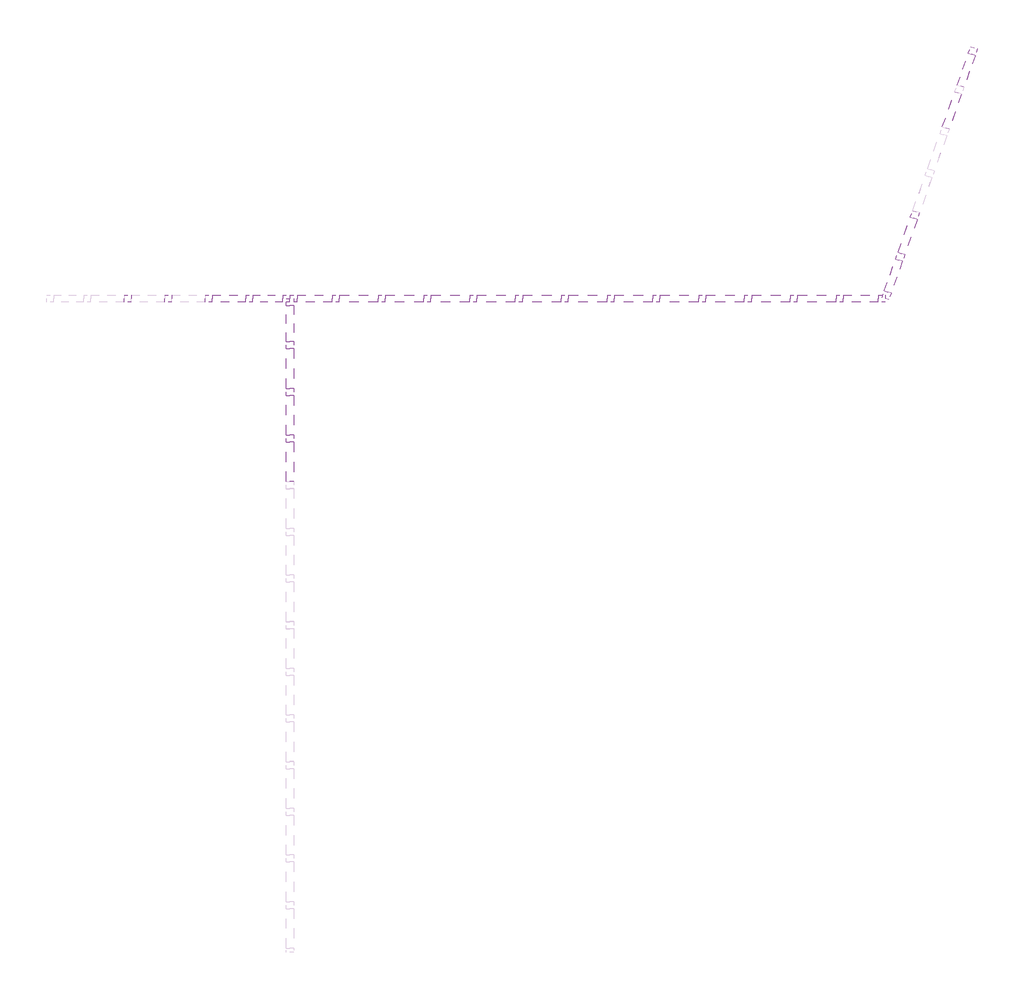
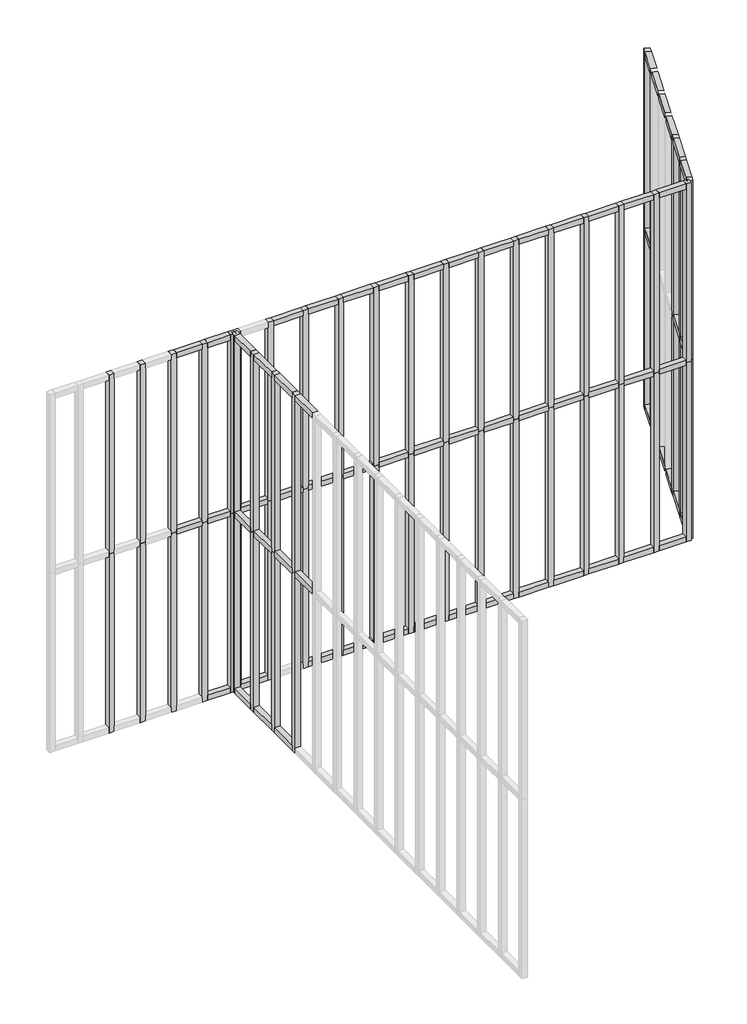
# One storey, part 8 of 9: 123 members.
"""IFC4 building model written with IfcOpenShell, lengths in millimetres."""

from ifc_helpers import new_model, si_unit, origin, place, context, project, spatial, transform, mapped, element, save
from components import montante_retangular_30mm_quadrado_ac79c377, montante_retangular_30mm_quadrado_16fee919, montante_retangular_30mm_quadrado_1e3c183d, montante_retangular_30mm_quadrado_ac46af65, montante_retangular_30mm_quadrado_54fe6a28, montante_retangular_30mm_quadrado_adf08955, montante_retangular_30mm_quadrado_f5f8abc7, montante_retangular_30mm_quadrado_1152fbe8, montante_retangular_30mm_quadrado_caeeb86b, montante_retangular_30mm_quadrado_d90e5050, montante_retangular_30mm_quadrado_529ace61, montante_retangular_30mm_quadrado_48edb5a7, montante_retangular_30mm_quadrado_ebddef8f, montante_retangular_30mm_quadrado_435085d7, montante_retangular_30mm_quadrado_4eb7c7a0, montante_retangular_30mm_quadrado_8179dd59, montante_retangular_30mm_quadrado_2f76d517, montante_retangular_30mm_quadrado_018b02ca

model = new_model("IFC4")

# Units and contexts
model_context = context("Model", 3, world=origin())
ifc_project = project(units=[si_unit("LENGTHUNIT", "METRE", prefix="MILLI")], contexts=[model_context])

# Site, building, storey
site = spatial("IfcSite", under=ifc_project)
building = spatial("IfcBuilding", under=site)
storey = spatial("IfcBuildingStorey", under=building, Name="Garagem 1", Elevation=47850.0)

# Members
placement = place(None, origin())
montante_retangular_30mm_quadrado_shape = montante_retangular_30mm_quadrado_ac79c377(model_context)
element("IfcMember", 1, ObjectType="Montante retangular : 30mm Quadrado", at=placement, inside=storey, context=model_context, shape_type="MappedRepresentation", body=[
    mapped(montante_retangular_30mm_quadrado_shape, transform((-6243.4895645, 10632.3610556, 52100.0), x_axis=(0.0, 0.0, 1.0), y_axis=(0.0, -1.0, 0.0), z_axis=(1.0, 0.0, 0.0))),
])
montante_retangular_30mm_quadrado_2_shape = montante_retangular_30mm_quadrado_16fee919(model_context)
element("IfcMember", 2, ObjectType="Montante retangular : 30mm Quadrado", at=placement, inside=storey, context=model_context, shape_type="MappedRepresentation", body=[
    mapped(montante_retangular_30mm_quadrado_2_shape, transform((-6400.9204789, 10632.3610556, 52100.0), x_axis=(0.0, 0.0, 1.0), y_axis=(0.0, -1.0, 0.0), z_axis=(1.0, 0.0, 0.0))),
])
element("IfcMember", 3, ObjectType="Montante retangular : 30mm Quadrado", at=placement, inside=storey, context=model_context, shape_type="MappedRepresentation", body=[
    mapped(montante_retangular_30mm_quadrado_shape, transform((-6370.9204789, 10632.3610556, 50000.0), x_axis=(0.0, 0.0, -1.0), y_axis=(0.0, -1.0, 0.0), z_axis=(-1.0, 0.0, 0.0))),
])
montante_retangular_30mm_quadrado_3_shape = montante_retangular_30mm_quadrado_1e3c183d(model_context)
element("IfcMember", 4, ObjectType="Montante retangular : 30mm Quadrado", at=placement, inside=storey, context=model_context, shape_type="MappedRepresentation", body=[
    mapped(montante_retangular_30mm_quadrado_3_shape, transform((-6243.4895645, 10632.3610556, 51050.0), x_axis=(0.0, 0.0, 1.0), y_axis=(0.0, -1.0, 0.0), z_axis=(1.0, 0.0, 0.0))),
])
montante_retangular_30mm_quadrado_4_shape = montante_retangular_30mm_quadrado_ac46af65(model_context)
element("IfcMember", 5, ObjectType="Montante retangular : 30mm Quadrado", at=placement, inside=storey, context=model_context, shape_type="MappedRepresentation", body=[
    mapped(montante_retangular_30mm_quadrado_4_shape, transform((-6400.9204789, 10632.3610556, 51050.0), x_axis=(0.0, 0.0, 1.0), y_axis=(0.0, -1.0, 0.0), z_axis=(1.0, 0.0, 0.0))),
])
montante_retangular_30mm_quadrado_5_shape = montante_retangular_30mm_quadrado_54fe6a28(model_context)
element("IfcMember", 6, ObjectType="Montante retangular : 30mm Quadrado", at=placement, inside=storey, context=model_context, shape_type="MappedRepresentation", body=[
    mapped(montante_retangular_30mm_quadrado_5_shape, transform((-6903.2132212, 10632.3610556, 50000.0), x_axis=(1.0, 0.0, 0.0), y_axis=(0.0, -1.0, 0.0), z_axis=(0.0, 0.0, -1.0))),
])
element("IfcMember", 7, ObjectType="Montante retangular : 30mm Quadrado", at=placement, inside=storey, context=model_context, shape_type="MappedRepresentation", body=[
    mapped(montante_retangular_30mm_quadrado_5_shape, transform((-6730.7823071, 10632.3610556, 50000.0), x_axis=(1.0, 0.0, 0.0), y_axis=(0.0, -1.0, 0.0), z_axis=(0.0, 0.0, -1.0))),
])
element("IfcMember", 8, ObjectType="Montante retangular : 30mm Quadrado", at=placement, inside=storey, context=model_context, shape_type="MappedRepresentation", body=[
    mapped(montante_retangular_30mm_quadrado_5_shape, transform((-6558.351393, 10632.3610556, 50000.0), x_axis=(1.0, 0.0, 0.0), y_axis=(0.0, -1.0, 0.0), z_axis=(0.0, 0.0, -1.0))),
])
element("IfcMember", 9, ObjectType="Montante retangular : 30mm Quadrado", at=placement, inside=storey, context=model_context, shape_type="MappedRepresentation", body=[
    mapped(montante_retangular_30mm_quadrado_5_shape, transform((-6018.8596168, 10632.3610556, 50000.0), x_axis=(1.0, 0.0, 0.0), y_axis=(0.0, -1.0, 0.0), z_axis=(0.0, 0.0, -1.0))),
])
element("IfcMember", 10, ObjectType="Montante retangular : 30mm Quadrado", at=placement, inside=storey, context=model_context, shape_type="MappedRepresentation", body=[
    mapped(montante_retangular_30mm_quadrado_5_shape, transform((-5824.2296693, 10632.3610556, 50000.0), x_axis=(1.0, 0.0, 0.0), y_axis=(0.0, -1.0, 0.0), z_axis=(0.0, 0.0, -1.0))),
])
element("IfcMember", 11, ObjectType="Montante retangular : 30mm Quadrado", at=placement, inside=storey, context=model_context, shape_type="MappedRepresentation", body=[
    mapped(montante_retangular_30mm_quadrado_5_shape, transform((-5629.5997219, 10632.3610556, 50000.0), x_axis=(1.0, 0.0, 0.0), y_axis=(0.0, -1.0, 0.0), z_axis=(0.0, 0.0, -1.0))),
])
element("IfcMember", 12, ObjectType="Montante retangular : 30mm Quadrado", at=placement, inside=storey, context=model_context, shape_type="MappedRepresentation", body=[
    mapped(montante_retangular_30mm_quadrado_5_shape, transform((-5434.9697745, 10632.3610556, 50000.0), x_axis=(1.0, 0.0, 0.0), y_axis=(0.0, -1.0, 0.0), z_axis=(0.0, 0.0, -1.0))),
])
element("IfcMember", 13, ObjectType="Montante retangular : 30mm Quadrado", at=placement, inside=storey, context=model_context, shape_type="MappedRepresentation", body=[
    mapped(montante_retangular_30mm_quadrado_5_shape, transform((-5240.3398271, 10632.3610556, 50000.0), x_axis=(1.0, 0.0, 0.0), y_axis=(0.0, -1.0, 0.0), z_axis=(0.0, 0.0, -1.0))),
])
element("IfcMember", 14, ObjectType="Montante retangular : 30mm Quadrado", at=placement, inside=storey, context=model_context, shape_type="MappedRepresentation", body=[
    mapped(montante_retangular_30mm_quadrado_5_shape, transform((-5045.7098797, 10632.3610556, 50000.0), x_axis=(1.0, 0.0, 0.0), y_axis=(0.0, -1.0, 0.0), z_axis=(0.0, 0.0, -1.0))),
])
element("IfcMember", 15, ObjectType="Montante retangular : 30mm Quadrado", at=placement, inside=storey, context=model_context, shape_type="MappedRepresentation", body=[
    mapped(montante_retangular_30mm_quadrado_5_shape, transform((-4851.0799322, 10632.3610556, 50000.0), x_axis=(1.0, 0.0, 0.0), y_axis=(0.0, -1.0, 0.0), z_axis=(0.0, 0.0, -1.0))),
])
element("IfcMember", 16, ObjectType="Montante retangular : 30mm Quadrado", at=placement, inside=storey, context=model_context, shape_type="MappedRepresentation", body=[
    mapped(montante_retangular_30mm_quadrado_5_shape, transform((-3557.5911344, 10987.8517916, 50000.0), x_axis=(-0.33339028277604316, -0.942788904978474, 0.0), y_axis=(-0.942788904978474, 0.33339028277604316, 0.0), z_axis=(0.0, 0.0, -1.0))),
])
element("IfcMember", 17, ObjectType="Montante retangular : 30mm Quadrado", at=placement, inside=storey, context=model_context, shape_type="MappedRepresentation", body=[
    mapped(montante_retangular_30mm_quadrado_5_shape, transform((-3620.4456908, 10810.1064237, 50000.0), x_axis=(-0.33339028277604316, -0.942788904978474, 0.0), y_axis=(-0.942788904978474, 0.33339028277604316, 0.0), z_axis=(0.0, 0.0, -1.0))),
])
element("IfcMember", 18, ObjectType="Montante retangular : 30mm Quadrado", at=placement, inside=storey, context=model_context, shape_type="MappedRepresentation", body=[
    mapped(montante_retangular_30mm_quadrado_5_shape, transform((-4656.4499848, 10632.3610556, 50000.0), x_axis=(1.0, 0.0, 0.0), y_axis=(0.0, -1.0, 0.0), z_axis=(0.0, 0.0, -1.0))),
])
element("IfcMember", 19, ObjectType="Montante retangular : 30mm Quadrado", at=placement, inside=storey, context=model_context, shape_type="MappedRepresentation", body=[
    mapped(montante_retangular_30mm_quadrado_5_shape, transform((-4461.8200374, 10632.3610556, 50000.0), x_axis=(1.0, 0.0, 0.0), y_axis=(0.0, -1.0, 0.0), z_axis=(0.0, 0.0, -1.0))),
])
element("IfcMember", 20, ObjectType="Montante retangular : 30mm Quadrado", at=placement, inside=storey, context=model_context, shape_type="MappedRepresentation", body=[
    mapped(montante_retangular_30mm_quadrado_5_shape, transform((-4267.19009, 10632.3610556, 50000.0), x_axis=(1.0, 0.0, 0.0), y_axis=(0.0, -1.0, 0.0), z_axis=(0.0, 0.0, -1.0))),
])
element("IfcMember", 21, ObjectType="Montante retangular : 30mm Quadrado", at=placement, inside=storey, context=model_context, shape_type="MappedRepresentation", body=[
    mapped(montante_retangular_30mm_quadrado_5_shape, transform((-4072.5601425, 10632.3610556, 50000.0), x_axis=(1.0, 0.0, 0.0), y_axis=(0.0, -1.0, 0.0), z_axis=(0.0, 0.0, -1.0))),
])
element("IfcMember", 22, ObjectType="Montante retangular : 30mm Quadrado", at=placement, inside=storey, context=model_context, shape_type="MappedRepresentation", body=[
    mapped(montante_retangular_30mm_quadrado_5_shape, transform((-3877.9301951, 10632.3610556, 50000.0), x_axis=(1.0, 0.0, 0.0), y_axis=(0.0, -1.0, 0.0), z_axis=(0.0, 0.0, -1.0))),
])
element("IfcMember", 23, ObjectType="Montante retangular : 30mm Quadrado", at=placement, inside=storey, context=model_context, shape_type="MappedRepresentation", body=[
    mapped(montante_retangular_30mm_quadrado_5_shape, transform((-6213.4895645, 10037.1893309, 50000.0), x_axis=(0.0, 1.0, 0.0), y_axis=(1.0, 0.0, 0.0), z_axis=(0.0, 0.0, -1.0))),
])
element("IfcMember", 24, ObjectType="Montante retangular : 30mm Quadrado", at=placement, inside=storey, context=model_context, shape_type="MappedRepresentation", body=[
    mapped(montante_retangular_30mm_quadrado_5_shape, transform((-6213.4895645, 10235.5799057, 50000.0), x_axis=(0.0, 1.0, 0.0), y_axis=(1.0, 0.0, 0.0), z_axis=(0.0, 0.0, -1.0))),
])
element("IfcMember", 25, ObjectType="Montante retangular : 30mm Quadrado", at=placement, inside=storey, context=model_context, shape_type="MappedRepresentation", body=[
    mapped(montante_retangular_30mm_quadrado_5_shape, transform((-6213.4895645, 10433.9704805, 50000.0), x_axis=(0.0, 1.0, 0.0), y_axis=(1.0, 0.0, 0.0), z_axis=(0.0, 0.0, -1.0))),
])
element("IfcMember", 26, ObjectType="Montante retangular : 30mm Quadrado", at=placement, inside=storey, context=model_context, shape_type="MappedRepresentation", body=[
    mapped(montante_retangular_30mm_quadrado_5_shape, transform((-6385.9204789, 10632.3610556, 50000.0), x_axis=(1.0, 0.0, 0.0), y_axis=(0.0, -1.0, 0.0), z_axis=(0.0, 0.0, -1.0))),
])
element("IfcMember", 27, ObjectType="Montante retangular : 30mm Quadrado", at=placement, inside=storey, context=model_context, shape_type="MappedRepresentation", body=[
    mapped(montante_retangular_30mm_quadrado_5_shape, transform((-6903.2132212, 10632.3610556, 51050.0), x_axis=(1.0, 0.0, 0.0), y_axis=(0.0, -1.0, 0.0), z_axis=(0.0, 0.0, -1.0))),
])
element("IfcMember", 28, ObjectType="Montante retangular : 30mm Quadrado", at=placement, inside=storey, context=model_context, shape_type="MappedRepresentation", body=[
    mapped(montante_retangular_30mm_quadrado_5_shape, transform((-6730.7823071, 10632.3610556, 51050.0), x_axis=(1.0, 0.0, 0.0), y_axis=(0.0, -1.0, 0.0), z_axis=(0.0, 0.0, -1.0))),
])
element("IfcMember", 29, ObjectType="Montante retangular : 30mm Quadrado", at=placement, inside=storey, context=model_context, shape_type="MappedRepresentation", body=[
    mapped(montante_retangular_30mm_quadrado_5_shape, transform((-6558.351393, 10632.3610556, 51050.0), x_axis=(1.0, 0.0, 0.0), y_axis=(0.0, -1.0, 0.0), z_axis=(0.0, 0.0, -1.0))),
])
element("IfcMember", 30, ObjectType="Montante retangular : 30mm Quadrado", at=placement, inside=storey, context=model_context, shape_type="MappedRepresentation", body=[
    mapped(montante_retangular_30mm_quadrado_5_shape, transform((-6018.8596168, 10632.3610556, 51050.0), x_axis=(1.0, 0.0, 0.0), y_axis=(0.0, -1.0, 0.0), z_axis=(0.0, 0.0, -1.0))),
])
element("IfcMember", 31, ObjectType="Montante retangular : 30mm Quadrado", at=placement, inside=storey, context=model_context, shape_type="MappedRepresentation", body=[
    mapped(montante_retangular_30mm_quadrado_5_shape, transform((-5824.2296693, 10632.3610556, 51050.0), x_axis=(1.0, 0.0, 0.0), y_axis=(0.0, -1.0, 0.0), z_axis=(0.0, 0.0, -1.0))),
])
element("IfcMember", 32, ObjectType="Montante retangular : 30mm Quadrado", at=placement, inside=storey, context=model_context, shape_type="MappedRepresentation", body=[
    mapped(montante_retangular_30mm_quadrado_5_shape, transform((-5629.5997219, 10632.3610556, 51050.0), x_axis=(1.0, 0.0, 0.0), y_axis=(0.0, -1.0, 0.0), z_axis=(0.0, 0.0, -1.0))),
])
element("IfcMember", 33, ObjectType="Montante retangular : 30mm Quadrado", at=placement, inside=storey, context=model_context, shape_type="MappedRepresentation", body=[
    mapped(montante_retangular_30mm_quadrado_5_shape, transform((-5434.9697745, 10632.3610556, 51050.0), x_axis=(1.0, 0.0, 0.0), y_axis=(0.0, -1.0, 0.0), z_axis=(0.0, 0.0, -1.0))),
])
element("IfcMember", 34, ObjectType="Montante retangular : 30mm Quadrado", at=placement, inside=storey, context=model_context, shape_type="MappedRepresentation", body=[
    mapped(montante_retangular_30mm_quadrado_5_shape, transform((-5240.3398271, 10632.3610556, 51050.0), x_axis=(1.0, 0.0, 0.0), y_axis=(0.0, -1.0, 0.0), z_axis=(0.0, 0.0, -1.0))),
])
element("IfcMember", 35, ObjectType="Montante retangular : 30mm Quadrado", at=placement, inside=storey, context=model_context, shape_type="MappedRepresentation", body=[
    mapped(montante_retangular_30mm_quadrado_5_shape, transform((-5045.7098797, 10632.3610556, 51050.0), x_axis=(1.0, 0.0, 0.0), y_axis=(0.0, -1.0, 0.0), z_axis=(0.0, 0.0, -1.0))),
])
element("IfcMember", 36, ObjectType="Montante retangular : 30mm Quadrado", at=placement, inside=storey, context=model_context, shape_type="MappedRepresentation", body=[
    mapped(montante_retangular_30mm_quadrado_5_shape, transform((-4851.0799322, 10632.3610556, 51050.0), x_axis=(1.0, 0.0, 0.0), y_axis=(0.0, -1.0, 0.0), z_axis=(0.0, 0.0, -1.0))),
])
element("IfcMember", 37, ObjectType="Montante retangular : 30mm Quadrado", at=placement, inside=storey, context=model_context, shape_type="MappedRepresentation", body=[
    mapped(montante_retangular_30mm_quadrado_5_shape, transform((-3557.5911344, 10987.8517916, 51050.0), x_axis=(-0.33339028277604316, -0.942788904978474, 0.0), y_axis=(-0.942788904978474, 0.33339028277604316, 0.0), z_axis=(0.0, 0.0, -1.0))),
])
element("IfcMember", 38, ObjectType="Montante retangular : 30mm Quadrado", at=placement, inside=storey, context=model_context, shape_type="MappedRepresentation", body=[
    mapped(montante_retangular_30mm_quadrado_5_shape, transform((-3620.4456908, 10810.1064237, 51050.0), x_axis=(-0.33339028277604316, -0.942788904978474, 0.0), y_axis=(-0.942788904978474, 0.33339028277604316, 0.0), z_axis=(0.0, 0.0, -1.0))),
])
element("IfcMember", 39, ObjectType="Montante retangular : 30mm Quadrado", at=placement, inside=storey, context=model_context, shape_type="MappedRepresentation", body=[
    mapped(montante_retangular_30mm_quadrado_5_shape, transform((-4656.4499848, 10632.3610556, 51050.0), x_axis=(1.0, 0.0, 0.0), y_axis=(0.0, -1.0, 0.0), z_axis=(0.0, 0.0, -1.0))),
])
element("IfcMember", 40, ObjectType="Montante retangular : 30mm Quadrado", at=placement, inside=storey, context=model_context, shape_type="MappedRepresentation", body=[
    mapped(montante_retangular_30mm_quadrado_5_shape, transform((-4461.8200374, 10632.3610556, 51050.0), x_axis=(1.0, 0.0, 0.0), y_axis=(0.0, -1.0, 0.0), z_axis=(0.0, 0.0, -1.0))),
])
element("IfcMember", 41, ObjectType="Montante retangular : 30mm Quadrado", at=placement, inside=storey, context=model_context, shape_type="MappedRepresentation", body=[
    mapped(montante_retangular_30mm_quadrado_5_shape, transform((-4267.19009, 10632.3610556, 51050.0), x_axis=(1.0, 0.0, 0.0), y_axis=(0.0, -1.0, 0.0), z_axis=(0.0, 0.0, -1.0))),
])
element("IfcMember", 42, ObjectType="Montante retangular : 30mm Quadrado", at=placement, inside=storey, context=model_context, shape_type="MappedRepresentation", body=[
    mapped(montante_retangular_30mm_quadrado_5_shape, transform((-4072.5601425, 10632.3610556, 51050.0), x_axis=(1.0, 0.0, 0.0), y_axis=(0.0, -1.0, 0.0), z_axis=(0.0, 0.0, -1.0))),
])
element("IfcMember", 43, ObjectType="Montante retangular : 30mm Quadrado", at=placement, inside=storey, context=model_context, shape_type="MappedRepresentation", body=[
    mapped(montante_retangular_30mm_quadrado_5_shape, transform((-3877.9301951, 10632.3610556, 51050.0), x_axis=(1.0, 0.0, 0.0), y_axis=(0.0, -1.0, 0.0), z_axis=(0.0, 0.0, -1.0))),
])
element("IfcMember", 44, ObjectType="Montante retangular : 30mm Quadrado", at=placement, inside=storey, context=model_context, shape_type="MappedRepresentation", body=[
    mapped(montante_retangular_30mm_quadrado_5_shape, transform((-6213.4895645, 10037.1893309, 51050.0), x_axis=(0.0, 1.0, 0.0), y_axis=(1.0, 0.0, 0.0), z_axis=(0.0, 0.0, -1.0))),
])
element("IfcMember", 45, ObjectType="Montante retangular : 30mm Quadrado", at=placement, inside=storey, context=model_context, shape_type="MappedRepresentation", body=[
    mapped(montante_retangular_30mm_quadrado_5_shape, transform((-6213.4895645, 10235.5799057, 51050.0), x_axis=(0.0, 1.0, 0.0), y_axis=(1.0, 0.0, 0.0), z_axis=(0.0, 0.0, -1.0))),
])
element("IfcMember", 46, ObjectType="Montante retangular : 30mm Quadrado", at=placement, inside=storey, context=model_context, shape_type="MappedRepresentation", body=[
    mapped(montante_retangular_30mm_quadrado_5_shape, transform((-6213.4895645, 10433.9704805, 51050.0), x_axis=(0.0, 1.0, 0.0), y_axis=(1.0, 0.0, 0.0), z_axis=(0.0, 0.0, -1.0))),
])
element("IfcMember", 47, ObjectType="Montante retangular : 30mm Quadrado", at=placement, inside=storey, context=model_context, shape_type="MappedRepresentation", body=[
    mapped(montante_retangular_30mm_quadrado_5_shape, transform((-6385.9204789, 10632.3610556, 51050.0), x_axis=(1.0, 0.0, 0.0), y_axis=(0.0, -1.0, 0.0), z_axis=(0.0, 0.0, -1.0))),
])
montante_retangular_30mm_quadrado_6_shape = montante_retangular_30mm_quadrado_adf08955(model_context)
element("IfcMember", 48, ObjectType="Montante retangular : 30mm Quadrado", at=placement, inside=storey, context=model_context, shape_type="MappedRepresentation", body=[
    mapped(montante_retangular_30mm_quadrado_6_shape, transform((-3673.2985389, 10660.6447228, 52100.0), x_axis=(0.0, 0.0, 1.0), y_axis=(-0.9427889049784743, 0.33339028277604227, 0.0), z_axis=(-0.3333902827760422, -0.9427889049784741, 0.0))),
])
element("IfcMember", 49, ObjectType="Montante retangular : 30mm Quadrado", at=placement, inside=storey, context=model_context, shape_type="MappedRepresentation", body=[
    mapped(montante_retangular_30mm_quadrado_6_shape, transform((-3364.0266108, 11535.2297286, 52100.0), x_axis=(0.0, 0.0, 1.0), y_axis=(-0.942788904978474, 0.33339028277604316, 0.0), z_axis=(-0.3333902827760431, -0.9427889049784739, 0.0))),
])
montante_retangular_30mm_quadrado_7_shape = montante_retangular_30mm_quadrado_f5f8abc7(model_context)
element("IfcMember", 50, ObjectType="Montante retangular : 30mm Quadrado", at=placement, inside=storey, context=model_context, shape_type="MappedRepresentation", body=[
    mapped(montante_retangular_30mm_quadrado_7_shape, transform((-3426.8811673, 11357.4843608, 52100.0), x_axis=(0.0, 0.0, 1.0), y_axis=(-0.9427889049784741, 0.33339028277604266, 0.0), z_axis=(-0.33339028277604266, -0.9427889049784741, 0.0))),
])
element("IfcMember", 51, ObjectType="Montante retangular : 30mm Quadrado", at=placement, inside=storey, context=model_context, shape_type="MappedRepresentation", body=[
    mapped(montante_retangular_30mm_quadrado_7_shape, transform((-3489.7357237, 11179.738993, 52100.0), x_axis=(0.0, 0.0, 1.0), y_axis=(-0.9427889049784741, 0.33339028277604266, 0.0), z_axis=(-0.33339028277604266, -0.9427889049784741, 0.0))),
])
element("IfcMember", 52, ObjectType="Montante retangular : 30mm Quadrado", at=placement, inside=storey, context=model_context, shape_type="MappedRepresentation", body=[
    mapped(montante_retangular_30mm_quadrado_7_shape, transform((-3552.5902802, 11001.9936251, 52100.0), x_axis=(0.0, 0.0, 1.0), y_axis=(-0.9427889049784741, 0.33339028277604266, 0.0), z_axis=(-0.33339028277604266, -0.9427889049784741, 0.0))),
])
element("IfcMember", 53, ObjectType="Montante retangular : 30mm Quadrado", at=placement, inside=storey, context=model_context, shape_type="MappedRepresentation", body=[
    mapped(montante_retangular_30mm_quadrado_7_shape, transform((-3615.4448366, 10824.2482573, 52100.0), x_axis=(0.0, 0.0, 1.0), y_axis=(-0.9427889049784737, 0.33339028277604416, 0.0), z_axis=(-0.33339028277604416, -0.9427889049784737, 0.0))),
])
element("IfcMember", 54, ObjectType="Montante retangular : 30mm Quadrado", at=placement, inside=storey, context=model_context, shape_type="MappedRepresentation", body=[
    mapped(montante_retangular_30mm_quadrado_6_shape, transform((-3316.174617, 11670.549596, 50000.0), x_axis=(0.0, 0.0, -1.0), y_axis=(-0.942788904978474, 0.33339028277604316, 0.0), z_axis=(0.3333902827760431, 0.9427889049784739, 0.0))),
])
element("IfcMember", 55, ObjectType="Montante retangular : 30mm Quadrado", at=placement, inside=storey, context=model_context, shape_type="MappedRepresentation", body=[
    mapped(montante_retangular_30mm_quadrado_6_shape, transform((-3625.4465451, 10795.9645902, 50000.0), x_axis=(0.0, 0.0, -1.0), y_axis=(-0.9427889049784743, 0.33339028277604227, 0.0), z_axis=(0.3333902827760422, 0.9427889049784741, 0.0))),
])
element("IfcMember", 56, ObjectType="Montante retangular : 30mm Quadrado", at=placement, inside=storey, context=model_context, shape_type="MappedRepresentation", body=[
    mapped(montante_retangular_30mm_quadrado_7_shape, transform((-3374.0283193, 11506.9460615, 50000.0), x_axis=(0.0, 0.0, -1.0), y_axis=(-0.9427889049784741, 0.33339028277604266, 0.0), z_axis=(0.33339028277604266, 0.9427889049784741, 0.0))),
])
element("IfcMember", 57, ObjectType="Montante retangular : 30mm Quadrado", at=placement, inside=storey, context=model_context, shape_type="MappedRepresentation", body=[
    mapped(montante_retangular_30mm_quadrado_7_shape, transform((-3436.8828758, 11329.2006936, 50000.0), x_axis=(0.0, 0.0, -1.0), y_axis=(-0.9427889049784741, 0.33339028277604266, 0.0), z_axis=(0.33339028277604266, 0.9427889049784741, 0.0))),
])
element("IfcMember", 58, ObjectType="Montante retangular : 30mm Quadrado", at=placement, inside=storey, context=model_context, shape_type="MappedRepresentation", body=[
    mapped(montante_retangular_30mm_quadrado_7_shape, transform((-3499.7374322, 11151.4553258, 50000.0), x_axis=(0.0, 0.0, -1.0), y_axis=(-0.9427889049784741, 0.33339028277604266, 0.0), z_axis=(0.33339028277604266, 0.9427889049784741, 0.0))),
])
element("IfcMember", 59, ObjectType="Montante retangular : 30mm Quadrado", at=placement, inside=storey, context=model_context, shape_type="MappedRepresentation", body=[
    mapped(montante_retangular_30mm_quadrado_7_shape, transform((-3562.5919886, 10973.709958, 50000.0), x_axis=(0.0, 0.0, -1.0), y_axis=(-0.9427889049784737, 0.33339028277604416, 0.0), z_axis=(0.33339028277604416, 0.9427889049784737, 0.0))),
])
montante_retangular_30mm_quadrado_8_shape = montante_retangular_30mm_quadrado_1152fbe8(model_context)
element("IfcMember", 60, ObjectType="Montante retangular : 30mm Quadrado", at=placement, inside=storey, context=model_context, shape_type="MappedRepresentation", body=[
    mapped(montante_retangular_30mm_quadrado_8_shape, transform((-3364.0266108, 11535.2297286, 51050.0), x_axis=(0.0, 0.0, 1.0), y_axis=(-0.942788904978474, 0.33339028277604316, 0.0), z_axis=(-0.3333902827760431, -0.9427889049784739, 0.0))),
])
element("IfcMember", 61, ObjectType="Montante retangular : 30mm Quadrado", at=placement, inside=storey, context=model_context, shape_type="MappedRepresentation", body=[
    mapped(montante_retangular_30mm_quadrado_8_shape, transform((-3673.2985389, 10660.6447228, 51050.0), x_axis=(0.0, 0.0, 1.0), y_axis=(-0.9427889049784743, 0.33339028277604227, 0.0), z_axis=(-0.3333902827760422, -0.9427889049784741, 0.0))),
])
montante_retangular_30mm_quadrado_9_shape = montante_retangular_30mm_quadrado_caeeb86b(model_context)
element("IfcMember", 62, ObjectType="Montante retangular : 30mm Quadrado", at=placement, inside=storey, context=model_context, shape_type="MappedRepresentation", body=[
    mapped(montante_retangular_30mm_quadrado_9_shape, transform((-3426.8811673, 11357.4843608, 51050.0), x_axis=(0.0, 0.0, 1.0), y_axis=(-0.9427889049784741, 0.33339028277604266, 0.0), z_axis=(-0.33339028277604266, -0.9427889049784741, 0.0))),
])
element("IfcMember", 63, ObjectType="Montante retangular : 30mm Quadrado", at=placement, inside=storey, context=model_context, shape_type="MappedRepresentation", body=[
    mapped(montante_retangular_30mm_quadrado_9_shape, transform((-3615.4448366, 10824.2482573, 51050.0), x_axis=(0.0, 0.0, 1.0), y_axis=(-0.9427889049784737, 0.33339028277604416, 0.0), z_axis=(-0.33339028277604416, -0.9427889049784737, 0.0))),
])
montante_retangular_30mm_quadrado_10_shape = montante_retangular_30mm_quadrado_d90e5050(model_context)
element("IfcMember", 64, ObjectType="Montante retangular : 30mm Quadrado", at=placement, inside=storey, context=model_context, shape_type="MappedRepresentation", body=[
    mapped(montante_retangular_30mm_quadrado_10_shape, transform((-6213.4895645, 10602.3610556, 52100.0), x_axis=(0.0, 0.0, 1.0), y_axis=(1.0, 0.0, 0.0), z_axis=(0.0, 1.0, 0.0))),
])
montante_retangular_30mm_quadrado_11_shape = montante_retangular_30mm_quadrado_529ace61(model_context)
element("IfcMember", 65, ObjectType="Montante retangular : 30mm Quadrado", at=placement, inside=storey, context=model_context, shape_type="MappedRepresentation", body=[
    mapped(montante_retangular_30mm_quadrado_11_shape, transform((-6213.4895645, 10022.1893309, 52100.0), x_axis=(0.0, 0.0, 1.0), y_axis=(1.0, 0.0, 0.0), z_axis=(0.0, 1.0, 0.0))),
])
element("IfcMember", 66, ObjectType="Montante retangular : 30mm Quadrado", at=placement, inside=storey, context=model_context, shape_type="MappedRepresentation", body=[
    mapped(montante_retangular_30mm_quadrado_11_shape, transform((-6213.4895645, 10220.5799057, 52100.0), x_axis=(0.0, 0.0, 1.0), y_axis=(1.0, 0.0, 0.0), z_axis=(0.0, 1.0, 0.0))),
])
element("IfcMember", 67, ObjectType="Montante retangular : 30mm Quadrado", at=placement, inside=storey, context=model_context, shape_type="MappedRepresentation", body=[
    mapped(montante_retangular_30mm_quadrado_11_shape, transform((-6213.4895645, 10418.9704805, 52100.0), x_axis=(0.0, 0.0, 1.0), y_axis=(1.0, 0.0, 0.0), z_axis=(0.0, 1.0, 0.0))),
])
element("IfcMember", 68, ObjectType="Montante retangular : 30mm Quadrado", at=placement, inside=storey, context=model_context, shape_type="MappedRepresentation", body=[
    mapped(montante_retangular_30mm_quadrado_10_shape, transform((-6213.4895645, 10448.9704805, 50000.0), x_axis=(0.0, 0.0, -1.0), y_axis=(1.0, 0.0, 0.0), z_axis=(0.0, -1.0, 0.0))),
])
element("IfcMember", 69, ObjectType="Montante retangular : 30mm Quadrado", at=placement, inside=storey, context=model_context, shape_type="MappedRepresentation", body=[
    mapped(montante_retangular_30mm_quadrado_11_shape, transform((-6213.4895645, 10052.1893309, 50000.0), x_axis=(0.0, 0.0, -1.0), y_axis=(1.0, 0.0, 0.0), z_axis=(0.0, -1.0, 0.0))),
])
element("IfcMember", 70, ObjectType="Montante retangular : 30mm Quadrado", at=placement, inside=storey, context=model_context, shape_type="MappedRepresentation", body=[
    mapped(montante_retangular_30mm_quadrado_11_shape, transform((-6213.4895645, 10250.5799057, 50000.0), x_axis=(0.0, 0.0, -1.0), y_axis=(1.0, 0.0, 0.0), z_axis=(0.0, -1.0, 0.0))),
])
montante_retangular_30mm_quadrado_12_shape = montante_retangular_30mm_quadrado_48edb5a7(model_context)
element("IfcMember", 71, ObjectType="Montante retangular : 30mm Quadrado", at=placement, inside=storey, context=model_context, shape_type="MappedRepresentation", body=[
    mapped(montante_retangular_30mm_quadrado_12_shape, transform((-6213.4895645, 10602.3610556, 51050.0), x_axis=(0.0, 0.0, 1.0), y_axis=(1.0, 0.0, 0.0), z_axis=(0.0, 1.0, 0.0))),
])
montante_retangular_30mm_quadrado_13_shape = montante_retangular_30mm_quadrado_ebddef8f(model_context)
element("IfcMember", 72, ObjectType="Montante retangular : 30mm Quadrado", at=placement, inside=storey, context=model_context, shape_type="MappedRepresentation", body=[
    mapped(montante_retangular_30mm_quadrado_13_shape, transform((-6213.4895645, 10022.1893309, 51050.0), x_axis=(0.0, 0.0, 1.0), y_axis=(1.0, 0.0, 0.0), z_axis=(0.0, 1.0, 0.0))),
])
element("IfcMember", 73, ObjectType="Montante retangular : 30mm Quadrado", at=placement, inside=storey, context=model_context, shape_type="MappedRepresentation", body=[
    mapped(montante_retangular_30mm_quadrado_13_shape, transform((-6213.4895645, 10220.5799057, 51050.0), x_axis=(0.0, 0.0, 1.0), y_axis=(1.0, 0.0, 0.0), z_axis=(0.0, 1.0, 0.0))),
])
element("IfcMember", 74, ObjectType="Montante retangular : 30mm Quadrado", at=placement, inside=storey, context=model_context, shape_type="MappedRepresentation", body=[
    mapped(montante_retangular_30mm_quadrado_13_shape, transform((-6213.4895645, 10418.9704805, 51050.0), x_axis=(0.0, 0.0, 1.0), y_axis=(1.0, 0.0, 0.0), z_axis=(0.0, 1.0, 0.0))),
])
montante_retangular_30mm_quadrado_14_shape = montante_retangular_30mm_quadrado_435085d7(model_context)
element("IfcMember", 75, ObjectType="Montante retangular : 30mm Quadrado", at=placement, inside=storey, context=model_context, shape_type="MappedRepresentation", body=[
    mapped(montante_retangular_30mm_quadrado_14_shape, transform((-3713.3002474, 10632.3610556, 52100.0), x_axis=(0.0, 0.0, 1.0), y_axis=(0.0, -1.0, 0.0), z_axis=(1.0, 0.0, 0.0))),
])
montante_retangular_30mm_quadrado_15_shape = montante_retangular_30mm_quadrado_4eb7c7a0(model_context)
element("IfcMember", 76, ObjectType="Montante retangular : 30mm Quadrado", at=placement, inside=storey, context=model_context, shape_type="MappedRepresentation", body=[
    mapped(montante_retangular_30mm_quadrado_15_shape, transform((-5839.2296693, 10632.3610556, 52100.0), x_axis=(0.0, 0.0, 1.0), y_axis=(0.0, -1.0, 0.0), z_axis=(1.0, 0.0, 0.0))),
])
element("IfcMember", 77, ObjectType="Montante retangular : 30mm Quadrado", at=placement, inside=storey, context=model_context, shape_type="MappedRepresentation", body=[
    mapped(montante_retangular_30mm_quadrado_15_shape, transform((-5644.5997219, 10632.3610556, 52100.0), x_axis=(0.0, 0.0, 1.0), y_axis=(0.0, -1.0, 0.0), z_axis=(1.0, 0.0, 0.0))),
])
element("IfcMember", 78, ObjectType="Montante retangular : 30mm Quadrado", at=placement, inside=storey, context=model_context, shape_type="MappedRepresentation", body=[
    mapped(montante_retangular_30mm_quadrado_15_shape, transform((-5449.9697745, 10632.3610556, 52100.0), x_axis=(0.0, 0.0, 1.0), y_axis=(0.0, -1.0, 0.0), z_axis=(1.0, 0.0, 0.0))),
])
element("IfcMember", 79, ObjectType="Montante retangular : 30mm Quadrado", at=placement, inside=storey, context=model_context, shape_type="MappedRepresentation", body=[
    mapped(montante_retangular_30mm_quadrado_15_shape, transform((-5255.3398271, 10632.3610556, 52100.0), x_axis=(0.0, 0.0, 1.0), y_axis=(0.0, -1.0, 0.0), z_axis=(1.0, 0.0, 0.0))),
])
element("IfcMember", 80, ObjectType="Montante retangular : 30mm Quadrado", at=placement, inside=storey, context=model_context, shape_type="MappedRepresentation", body=[
    mapped(montante_retangular_30mm_quadrado_15_shape, transform((-5060.7098797, 10632.3610556, 52100.0), x_axis=(0.0, 0.0, 1.0), y_axis=(0.0, -1.0, 0.0), z_axis=(1.0, 0.0, 0.0))),
])
element("IfcMember", 81, ObjectType="Montante retangular : 30mm Quadrado", at=placement, inside=storey, context=model_context, shape_type="MappedRepresentation", body=[
    mapped(montante_retangular_30mm_quadrado_15_shape, transform((-4866.0799322, 10632.3610556, 52100.0), x_axis=(0.0, 0.0, 1.0), y_axis=(0.0, -1.0, 0.0), z_axis=(1.0, 0.0, 0.0))),
])
element("IfcMember", 82, ObjectType="Montante retangular : 30mm Quadrado", at=placement, inside=storey, context=model_context, shape_type="MappedRepresentation", body=[
    mapped(montante_retangular_30mm_quadrado_15_shape, transform((-4671.4499848, 10632.3610556, 52100.0), x_axis=(0.0, 0.0, 1.0), y_axis=(0.0, -1.0, 0.0), z_axis=(1.0, 0.0, 0.0))),
])
element("IfcMember", 83, ObjectType="Montante retangular : 30mm Quadrado", at=placement, inside=storey, context=model_context, shape_type="MappedRepresentation", body=[
    mapped(montante_retangular_30mm_quadrado_15_shape, transform((-4476.8200374, 10632.3610556, 52100.0), x_axis=(0.0, 0.0, 1.0), y_axis=(0.0, -1.0, 0.0), z_axis=(1.0, 0.0, 0.0))),
])
element("IfcMember", 84, ObjectType="Montante retangular : 30mm Quadrado", at=placement, inside=storey, context=model_context, shape_type="MappedRepresentation", body=[
    mapped(montante_retangular_30mm_quadrado_15_shape, transform((-4282.19009, 10632.3610556, 52100.0), x_axis=(0.0, 0.0, 1.0), y_axis=(0.0, -1.0, 0.0), z_axis=(1.0, 0.0, 0.0))),
])
element("IfcMember", 85, ObjectType="Montante retangular : 30mm Quadrado", at=placement, inside=storey, context=model_context, shape_type="MappedRepresentation", body=[
    mapped(montante_retangular_30mm_quadrado_15_shape, transform((-4087.5601425, 10632.3610556, 52100.0), x_axis=(0.0, 0.0, 1.0), y_axis=(0.0, -1.0, 0.0), z_axis=(1.0, 0.0, 0.0))),
])
element("IfcMember", 86, ObjectType="Montante retangular : 30mm Quadrado", at=placement, inside=storey, context=model_context, shape_type="MappedRepresentation", body=[
    mapped(montante_retangular_30mm_quadrado_15_shape, transform((-3892.9301951, 10632.3610556, 52100.0), x_axis=(0.0, 0.0, 1.0), y_axis=(0.0, -1.0, 0.0), z_axis=(1.0, 0.0, 0.0))),
])
element("IfcMember", 87, ObjectType="Montante retangular : 30mm Quadrado", at=placement, inside=storey, context=model_context, shape_type="MappedRepresentation", body=[
    mapped(montante_retangular_30mm_quadrado_15_shape, transform((-5809.2296693, 10632.3610556, 50000.0), x_axis=(0.0, 0.0, -1.0), y_axis=(0.0, -1.0, 0.0), z_axis=(-1.0, 0.0, 0.0))),
])
element("IfcMember", 88, ObjectType="Montante retangular : 30mm Quadrado", at=placement, inside=storey, context=model_context, shape_type="MappedRepresentation", body=[
    mapped(montante_retangular_30mm_quadrado_15_shape, transform((-5614.5997219, 10632.3610556, 50000.0), x_axis=(0.0, 0.0, -1.0), y_axis=(0.0, -1.0, 0.0), z_axis=(-1.0, 0.0, 0.0))),
])
element("IfcMember", 89, ObjectType="Montante retangular : 30mm Quadrado", at=placement, inside=storey, context=model_context, shape_type="MappedRepresentation", body=[
    mapped(montante_retangular_30mm_quadrado_15_shape, transform((-5419.9697745, 10632.3610556, 50000.0), x_axis=(0.0, 0.0, -1.0), y_axis=(0.0, -1.0, 0.0), z_axis=(-1.0, 0.0, 0.0))),
])
element("IfcMember", 90, ObjectType="Montante retangular : 30mm Quadrado", at=placement, inside=storey, context=model_context, shape_type="MappedRepresentation", body=[
    mapped(montante_retangular_30mm_quadrado_15_shape, transform((-5225.3398271, 10632.3610556, 50000.0), x_axis=(0.0, 0.0, -1.0), y_axis=(0.0, -1.0, 0.0), z_axis=(-1.0, 0.0, 0.0))),
])
element("IfcMember", 91, ObjectType="Montante retangular : 30mm Quadrado", at=placement, inside=storey, context=model_context, shape_type="MappedRepresentation", body=[
    mapped(montante_retangular_30mm_quadrado_15_shape, transform((-5030.7098797, 10632.3610556, 50000.0), x_axis=(0.0, 0.0, -1.0), y_axis=(0.0, -1.0, 0.0), z_axis=(-1.0, 0.0, 0.0))),
])
element("IfcMember", 92, ObjectType="Montante retangular : 30mm Quadrado", at=placement, inside=storey, context=model_context, shape_type="MappedRepresentation", body=[
    mapped(montante_retangular_30mm_quadrado_15_shape, transform((-4836.0799322, 10632.3610556, 50000.0), x_axis=(0.0, 0.0, -1.0), y_axis=(0.0, -1.0, 0.0), z_axis=(-1.0, 0.0, 0.0))),
])
element("IfcMember", 93, ObjectType="Montante retangular : 30mm Quadrado", at=placement, inside=storey, context=model_context, shape_type="MappedRepresentation", body=[
    mapped(montante_retangular_30mm_quadrado_15_shape, transform((-4641.4499848, 10632.3610556, 50000.0), x_axis=(0.0, 0.0, -1.0), y_axis=(0.0, -1.0, 0.0), z_axis=(-1.0, 0.0, 0.0))),
])
element("IfcMember", 94, ObjectType="Montante retangular : 30mm Quadrado", at=placement, inside=storey, context=model_context, shape_type="MappedRepresentation", body=[
    mapped(montante_retangular_30mm_quadrado_15_shape, transform((-4446.8200374, 10632.3610556, 50000.0), x_axis=(0.0, 0.0, -1.0), y_axis=(0.0, -1.0, 0.0), z_axis=(-1.0, 0.0, 0.0))),
])
element("IfcMember", 95, ObjectType="Montante retangular : 30mm Quadrado", at=placement, inside=storey, context=model_context, shape_type="MappedRepresentation", body=[
    mapped(montante_retangular_30mm_quadrado_15_shape, transform((-4252.19009, 10632.3610556, 50000.0), x_axis=(0.0, 0.0, -1.0), y_axis=(0.0, -1.0, 0.0), z_axis=(-1.0, 0.0, 0.0))),
])
element("IfcMember", 96, ObjectType="Montante retangular : 30mm Quadrado", at=placement, inside=storey, context=model_context, shape_type="MappedRepresentation", body=[
    mapped(montante_retangular_30mm_quadrado_15_shape, transform((-4057.5601425, 10632.3610556, 50000.0), x_axis=(0.0, 0.0, -1.0), y_axis=(0.0, -1.0, 0.0), z_axis=(-1.0, 0.0, 0.0))),
])
montante_retangular_30mm_quadrado_16_shape = montante_retangular_30mm_quadrado_8179dd59(model_context)
element("IfcMember", 97, ObjectType="Montante retangular : 30mm Quadrado", at=placement, inside=storey, context=model_context, shape_type="MappedRepresentation", body=[
    mapped(montante_retangular_30mm_quadrado_16_shape, transform((-5839.2296693, 10632.3610556, 51050.0), x_axis=(0.0, 0.0, 1.0), y_axis=(0.0, -1.0, 0.0), z_axis=(1.0, 0.0, 0.0))),
])
element("IfcMember", 98, ObjectType="Montante retangular : 30mm Quadrado", at=placement, inside=storey, context=model_context, shape_type="MappedRepresentation", body=[
    mapped(montante_retangular_30mm_quadrado_16_shape, transform((-5644.5997219, 10632.3610556, 51050.0), x_axis=(0.0, 0.0, 1.0), y_axis=(0.0, -1.0, 0.0), z_axis=(1.0, 0.0, 0.0))),
])
element("IfcMember", 99, ObjectType="Montante retangular : 30mm Quadrado", at=placement, inside=storey, context=model_context, shape_type="MappedRepresentation", body=[
    mapped(montante_retangular_30mm_quadrado_16_shape, transform((-5449.9697745, 10632.3610556, 51050.0), x_axis=(0.0, 0.0, 1.0), y_axis=(0.0, -1.0, 0.0), z_axis=(1.0, 0.0, 0.0))),
])
element("IfcMember", 100, ObjectType="Montante retangular : 30mm Quadrado", at=placement, inside=storey, context=model_context, shape_type="MappedRepresentation", body=[
    mapped(montante_retangular_30mm_quadrado_16_shape, transform((-5255.3398271, 10632.3610556, 51050.0), x_axis=(0.0, 0.0, 1.0), y_axis=(0.0, -1.0, 0.0), z_axis=(1.0, 0.0, 0.0))),
])
element("IfcMember", 101, ObjectType="Montante retangular : 30mm Quadrado", at=placement, inside=storey, context=model_context, shape_type="MappedRepresentation", body=[
    mapped(montante_retangular_30mm_quadrado_16_shape, transform((-5060.7098797, 10632.3610556, 51050.0), x_axis=(0.0, 0.0, 1.0), y_axis=(0.0, -1.0, 0.0), z_axis=(1.0, 0.0, 0.0))),
])
element("IfcMember", 102, ObjectType="Montante retangular : 30mm Quadrado", at=placement, inside=storey, context=model_context, shape_type="MappedRepresentation", body=[
    mapped(montante_retangular_30mm_quadrado_16_shape, transform((-4866.0799322, 10632.3610556, 51050.0), x_axis=(0.0, 0.0, 1.0), y_axis=(0.0, -1.0, 0.0), z_axis=(1.0, 0.0, 0.0))),
])
element("IfcMember", 103, ObjectType="Montante retangular : 30mm Quadrado", at=placement, inside=storey, context=model_context, shape_type="MappedRepresentation", body=[
    mapped(montante_retangular_30mm_quadrado_16_shape, transform((-4671.4499848, 10632.3610556, 51050.0), x_axis=(0.0, 0.0, 1.0), y_axis=(0.0, -1.0, 0.0), z_axis=(1.0, 0.0, 0.0))),
])
element("IfcMember", 104, ObjectType="Montante retangular : 30mm Quadrado", at=placement, inside=storey, context=model_context, shape_type="MappedRepresentation", body=[
    mapped(montante_retangular_30mm_quadrado_16_shape, transform((-4476.8200374, 10632.3610556, 51050.0), x_axis=(0.0, 0.0, 1.0), y_axis=(0.0, -1.0, 0.0), z_axis=(1.0, 0.0, 0.0))),
])
element("IfcMember", 105, ObjectType="Montante retangular : 30mm Quadrado", at=placement, inside=storey, context=model_context, shape_type="MappedRepresentation", body=[
    mapped(montante_retangular_30mm_quadrado_16_shape, transform((-4282.19009, 10632.3610556, 51050.0), x_axis=(0.0, 0.0, 1.0), y_axis=(0.0, -1.0, 0.0), z_axis=(1.0, 0.0, 0.0))),
])
element("IfcMember", 106, ObjectType="Montante retangular : 30mm Quadrado", at=placement, inside=storey, context=model_context, shape_type="MappedRepresentation", body=[
    mapped(montante_retangular_30mm_quadrado_16_shape, transform((-4087.5601425, 10632.3610556, 51050.0), x_axis=(0.0, 0.0, 1.0), y_axis=(0.0, -1.0, 0.0), z_axis=(1.0, 0.0, 0.0))),
])
element("IfcMember", 107, ObjectType="Montante retangular : 30mm Quadrado", at=placement, inside=storey, context=model_context, shape_type="MappedRepresentation", body=[
    mapped(montante_retangular_30mm_quadrado_16_shape, transform((-3892.9301951, 10632.3610556, 51050.0), x_axis=(0.0, 0.0, 1.0), y_axis=(0.0, -1.0, 0.0), z_axis=(1.0, 0.0, 0.0))),
])
element("IfcMember", 108, ObjectType="Montante retangular : 30mm Quadrado", at=placement, inside=storey, context=model_context, shape_type="MappedRepresentation", body=[
    mapped(montante_retangular_30mm_quadrado_14_shape, transform((-3862.9301951, 10632.3610556, 50000.0), x_axis=(0.0, 0.0, -1.0), y_axis=(0.0, -1.0, 0.0), z_axis=(-1.0, 0.0, 0.0))),
])
element("IfcMember", 109, ObjectType="Montante retangular : 30mm Quadrado", at=placement, inside=storey, context=model_context, shape_type="MappedRepresentation", body=[
    mapped(montante_retangular_30mm_quadrado_14_shape, transform((-6183.4895645, 10632.3610556, 50000.0), x_axis=(0.0, 0.0, -1.0), y_axis=(0.0, -1.0, 0.0), z_axis=(-1.0, 0.0, 0.0))),
])
montante_retangular_30mm_quadrado_17_shape = montante_retangular_30mm_quadrado_2f76d517(model_context)
element("IfcMember", 110, ObjectType="Montante retangular : 30mm Quadrado", at=placement, inside=storey, context=model_context, shape_type="MappedRepresentation", body=[
    mapped(montante_retangular_30mm_quadrado_17_shape, transform((-3713.3002474, 10632.3610556, 51050.0), x_axis=(0.0, 0.0, 1.0), y_axis=(0.0, -1.0, 0.0), z_axis=(1.0, 0.0, 0.0))),
])
element("IfcMember", 111, ObjectType="Montante retangular : 30mm Quadrado", at=placement, inside=storey, context=model_context, shape_type="MappedRepresentation", body=[
    mapped(montante_retangular_30mm_quadrado_17_shape, transform((-6033.8596168, 10632.3610556, 51050.0), x_axis=(0.0, 0.0, 1.0), y_axis=(0.0, -1.0, 0.0), z_axis=(1.0, 0.0, 0.0))),
])
montante_retangular_30mm_quadrado_18_shape = montante_retangular_30mm_quadrado_018b02ca(model_context)
element("IfcMember", 112, ObjectType="Montante retangular : 30mm Quadrado", at=placement, inside=storey, context=model_context, shape_type="MappedRepresentation", body=[
    mapped(montante_retangular_30mm_quadrado_18_shape, transform((-3683.3002474, 10632.3610556, 50000.0), x_axis=(1.0, 0.0, 0.0), y_axis=(0.0, -1.0, 0.0), z_axis=(0.0, 0.0, -1.0))),
])
element("IfcMember", 113, ObjectType="Montante retangular : 30mm Quadrado", at=placement, inside=storey, context=model_context, shape_type="MappedRepresentation", body=[
    mapped(montante_retangular_30mm_quadrado_18_shape, transform((-3683.3002474, 10632.3610556, 50000.0), x_axis=(-0.33339028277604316, -0.942788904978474, 0.0), y_axis=(-0.942788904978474, 0.33339028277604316, 0.0), z_axis=(0.0, 0.0, -1.0))),
])
element("IfcMember", 114, ObjectType="Montante retangular : 30mm Quadrado", at=placement, inside=storey, context=model_context, shape_type="MappedRepresentation", body=[
    mapped(montante_retangular_30mm_quadrado_18_shape, transform((-6213.4895645, 10632.3610556, 50000.0), x_axis=(0.0, 1.0, 0.0), y_axis=(1.0, 0.0, 0.0), z_axis=(0.0, 0.0, -1.0))),
])
element("IfcMember", 115, ObjectType="Montante retangular : 30mm Quadrado", at=placement, inside=storey, context=model_context, shape_type="MappedRepresentation", body=[
    mapped(montante_retangular_30mm_quadrado_18_shape, transform((-6213.4895645, 10632.3610556, 50000.0), x_axis=(1.0, 0.0, 0.0), y_axis=(0.0, -1.0, 0.0), z_axis=(0.0, 0.0, -1.0))),
])
element("IfcMember", 116, ObjectType="Montante retangular : 30mm Quadrado", at=placement, inside=storey, context=model_context, shape_type="MappedRepresentation", body=[
    mapped(montante_retangular_30mm_quadrado_18_shape, transform((-3683.3002474, 10632.3610556, 51050.0), x_axis=(1.0, 0.0, 0.0), y_axis=(0.0, -1.0, 0.0), z_axis=(0.0, 0.0, -1.0))),
])
element("IfcMember", 117, ObjectType="Montante retangular : 30mm Quadrado", at=placement, inside=storey, context=model_context, shape_type="MappedRepresentation", body=[
    mapped(montante_retangular_30mm_quadrado_18_shape, transform((-3683.3002474, 10632.3610556, 51050.0), x_axis=(-0.33339028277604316, -0.942788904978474, 0.0), y_axis=(-0.942788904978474, 0.33339028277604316, 0.0), z_axis=(0.0, 0.0, -1.0))),
])
element("IfcMember", 118, ObjectType="Montante retangular : 30mm Quadrado", at=placement, inside=storey, context=model_context, shape_type="MappedRepresentation", body=[
    mapped(montante_retangular_30mm_quadrado_18_shape, transform((-6213.4895645, 10632.3610556, 51050.0), x_axis=(0.0, 1.0, 0.0), y_axis=(1.0, 0.0, 0.0), z_axis=(0.0, 0.0, -1.0))),
])
element("IfcMember", 119, ObjectType="Montante retangular : 30mm Quadrado", at=placement, inside=storey, context=model_context, shape_type="MappedRepresentation", body=[
    mapped(montante_retangular_30mm_quadrado_18_shape, transform((-6213.4895645, 10632.3610556, 51050.0), x_axis=(1.0, 0.0, 0.0), y_axis=(0.0, -1.0, 0.0), z_axis=(0.0, 0.0, -1.0))),
])
element("IfcMember", 120, ObjectType="Montante retangular : 30mm Quadrado", at=placement, inside=storey, context=model_context, shape_type="MappedRepresentation", body=[
    mapped(montante_retangular_30mm_quadrado_18_shape, transform((-3306.1729085, 11698.8332632, 52100.0), x_axis=(0.33339028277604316, 0.942788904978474, 0.0), y_axis=(-0.942788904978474, 0.33339028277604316, 0.0), z_axis=(0.0, 0.0, 1.0))),
])
element("IfcMember", 121, ObjectType="Montante retangular : 30mm Quadrado", at=placement, inside=storey, context=model_context, shape_type="MappedRepresentation", body=[
    mapped(montante_retangular_30mm_quadrado_18_shape, transform((-6213.4895645, 10632.3610556, 52100.0), x_axis=(-1.0, 0.0, 0.0), y_axis=(0.0, -1.0, 0.0), z_axis=(0.0, 0.0, 1.0))),
])
element("IfcMember", 122, ObjectType="Montante retangular : 30mm Quadrado", at=placement, inside=storey, context=model_context, shape_type="MappedRepresentation", body=[
    mapped(montante_retangular_30mm_quadrado_18_shape, transform((-3306.1729085, 11698.8332632, 51050.0), x_axis=(0.33339028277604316, 0.942788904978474, 0.0), y_axis=(-0.942788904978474, 0.33339028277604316, 0.0), z_axis=(0.0, 0.0, 1.0))),
])
element("IfcMember", 123, ObjectType="Montante retangular : 30mm Quadrado", at=placement, inside=storey, context=model_context, shape_type="MappedRepresentation", body=[
    mapped(montante_retangular_30mm_quadrado_18_shape, transform((-6213.4895645, 10632.3610556, 51050.0), x_axis=(-1.0, 0.0, 0.0), y_axis=(0.0, -1.0, 0.0), z_axis=(0.0, 0.0, 1.0))),
])

save(model, "model.ifc")
